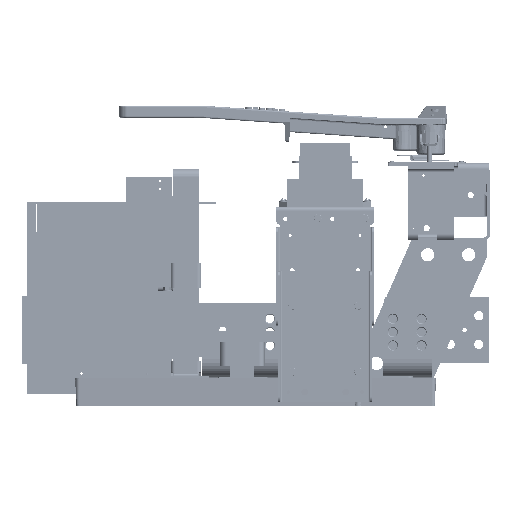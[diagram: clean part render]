
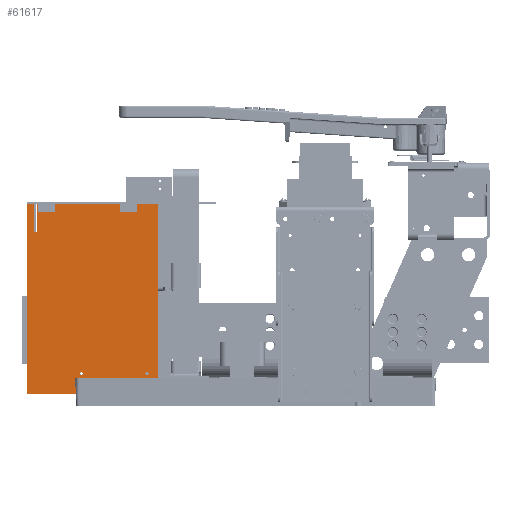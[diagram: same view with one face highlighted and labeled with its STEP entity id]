
A CAD part, left-side view. The second image highlights one B-rep face of the part: STEP entity #61617.
In plain terms, the highlighted planar face has unit normal (-1, 0, 0) as drawn and (0, 0, -1) by its records, which use the part's own axes.
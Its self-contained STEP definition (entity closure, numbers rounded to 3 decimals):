
#2981=FACE_BOUND('',#13034,.T.);
#2982=FACE_BOUND('',#13035,.T.);
#2983=FACE_BOUND('',#13036,.T.);
#2984=FACE_BOUND('',#13037,.T.);
#4947=CIRCLE('',#68011,0.097);
#4949=CIRCLE('',#68014,0.097);
#4951=CIRCLE('',#68017,0.097);
#4953=CIRCLE('',#68020,0.097);
#9077=FACE_OUTER_BOUND('',#13033,.T.);
#13033=EDGE_LOOP('',(#48762,#48763,#48764,#48765,#48766,#48767,#48768,#48769,
#48770,#48771,#48772,#48773));
#13034=EDGE_LOOP('',(#48774));
#13035=EDGE_LOOP('',(#48775));
#13036=EDGE_LOOP('',(#48776));
#13037=EDGE_LOOP('',(#48777));
#17681=LINE('',#100176,#22832);
#17685=LINE('',#100184,#22836);
#17688=LINE('',#100190,#22839);
#17691=LINE('',#100196,#22842);
#17694=LINE('',#100202,#22845);
#17697=LINE('',#100208,#22848);
#17700=LINE('',#100214,#22851);
#17703=LINE('',#100220,#22854);
#17706=LINE('',#100226,#22857);
#17709=LINE('',#100232,#22860);
#17712=LINE('',#100238,#22863);
#17715=LINE('',#100243,#22866);
#22832=VECTOR('',#80451,0.394);
#22836=VECTOR('',#80457,0.394);
#22839=VECTOR('',#80462,0.394);
#22842=VECTOR('',#80467,0.394);
#22845=VECTOR('',#80472,0.394);
#22848=VECTOR('',#80477,0.394);
#22851=VECTOR('',#80482,0.394);
#22854=VECTOR('',#80487,0.394);
#22857=VECTOR('',#80492,0.394);
#22860=VECTOR('',#80497,0.394);
#22863=VECTOR('',#80502,0.394);
#22866=VECTOR('',#80507,0.394);
#28341=VERTEX_POINT('',#100150);
#28343=VERTEX_POINT('',#100156);
#28345=VERTEX_POINT('',#100162);
#28347=VERTEX_POINT('',#100168);
#28349=VERTEX_POINT('',#100174);
#28350=VERTEX_POINT('',#100175);
#28353=VERTEX_POINT('',#100183);
#28355=VERTEX_POINT('',#100189);
#28357=VERTEX_POINT('',#100195);
#28359=VERTEX_POINT('',#100201);
#28361=VERTEX_POINT('',#100207);
#28363=VERTEX_POINT('',#100213);
#28365=VERTEX_POINT('',#100219);
#28367=VERTEX_POINT('',#100225);
#28369=VERTEX_POINT('',#100231);
#28371=VERTEX_POINT('',#100237);
#35549=EDGE_CURVE('',#28341,#28341,#4947,.T.);
#35552=EDGE_CURVE('',#28343,#28343,#4949,.T.);
#35555=EDGE_CURVE('',#28345,#28345,#4951,.T.);
#35558=EDGE_CURVE('',#28347,#28347,#4953,.T.);
#35561=EDGE_CURVE('',#28349,#28350,#17681,.T.);
#35565=EDGE_CURVE('',#28353,#28349,#17685,.T.);
#35568=EDGE_CURVE('',#28355,#28353,#17688,.T.);
#35571=EDGE_CURVE('',#28357,#28355,#17691,.T.);
#35574=EDGE_CURVE('',#28359,#28357,#17694,.T.);
#35577=EDGE_CURVE('',#28361,#28359,#17697,.T.);
#35580=EDGE_CURVE('',#28363,#28361,#17700,.T.);
#35583=EDGE_CURVE('',#28365,#28363,#17703,.T.);
#35586=EDGE_CURVE('',#28367,#28365,#17706,.T.);
#35589=EDGE_CURVE('',#28369,#28367,#17709,.T.);
#35592=EDGE_CURVE('',#28371,#28369,#17712,.T.);
#35595=EDGE_CURVE('',#28350,#28371,#17715,.T.);
#48762=ORIENTED_EDGE('',*,*,#35595,.F.);
#48763=ORIENTED_EDGE('',*,*,#35561,.F.);
#48764=ORIENTED_EDGE('',*,*,#35565,.F.);
#48765=ORIENTED_EDGE('',*,*,#35568,.F.);
#48766=ORIENTED_EDGE('',*,*,#35571,.F.);
#48767=ORIENTED_EDGE('',*,*,#35574,.F.);
#48768=ORIENTED_EDGE('',*,*,#35577,.F.);
#48769=ORIENTED_EDGE('',*,*,#35580,.F.);
#48770=ORIENTED_EDGE('',*,*,#35583,.F.);
#48771=ORIENTED_EDGE('',*,*,#35586,.F.);
#48772=ORIENTED_EDGE('',*,*,#35589,.F.);
#48773=ORIENTED_EDGE('',*,*,#35592,.F.);
#48774=ORIENTED_EDGE('',*,*,#35549,.T.);
#48775=ORIENTED_EDGE('',*,*,#35552,.T.);
#48776=ORIENTED_EDGE('',*,*,#35555,.T.);
#48777=ORIENTED_EDGE('',*,*,#35558,.T.);
#59009=PLANE('',#68035);
#61617=ADVANCED_FACE('',(#9077,#2981,#2982,#2983,#2984),#59009,.F.);
#68011=AXIS2_PLACEMENT_3D('',#100151,#80423,#80424);
#68014=AXIS2_PLACEMENT_3D('',#100157,#80430,#80431);
#68017=AXIS2_PLACEMENT_3D('',#100163,#80437,#80438);
#68020=AXIS2_PLACEMENT_3D('',#100169,#80444,#80445);
#68035=AXIS2_PLACEMENT_3D('',#100246,#80511,#80512);
#80423=DIRECTION('center_axis',(0.,0.,1.));
#80424=DIRECTION('ref_axis',(-1.,0.,0.));
#80430=DIRECTION('center_axis',(0.,0.,1.));
#80431=DIRECTION('ref_axis',(-1.,0.,0.));
#80437=DIRECTION('center_axis',(0.,0.,1.));
#80438=DIRECTION('ref_axis',(-1.,0.,0.));
#80444=DIRECTION('center_axis',(0.,0.,1.));
#80445=DIRECTION('ref_axis',(-1.,0.,0.));
#80451=DIRECTION('',(1.,0.,0.));
#80457=DIRECTION('',(0.,1.,0.));
#80462=DIRECTION('',(1.,0.,0.));
#80467=DIRECTION('',(0.,-1.,0.));
#80472=DIRECTION('',(-1.,0.,0.));
#80477=DIRECTION('',(0.,-1.,0.));
#80482=DIRECTION('',(1.,0.,0.));
#80487=DIRECTION('',(0.,-1.,0.));
#80492=DIRECTION('',(-1.,0.,0.));
#80497=DIRECTION('',(0.,1.,0.));
#80502=DIRECTION('',(1.,0.,0.));
#80507=DIRECTION('',(0.,-1.,0.));
#80511=DIRECTION('center_axis',(0.,0.,1.));
#80512=DIRECTION('ref_axis',(1.,0.,0.));
#100150=CARTESIAN_POINT('',(0.347,2.,0.));
#100151=CARTESIAN_POINT('Origin',(0.25,2.,0.));
#100156=CARTESIAN_POINT('',(0.347,7.,0.));
#100157=CARTESIAN_POINT('Origin',(0.25,7.,0.));
#100162=CARTESIAN_POINT('',(10.472,0.688,0.));
#100163=CARTESIAN_POINT('Origin',(10.375,0.688,0.));
#100168=CARTESIAN_POINT('',(10.472,4.688,0.));
#100169=CARTESIAN_POINT('Origin',(10.375,4.688,0.));
#100174=CARTESIAN_POINT('',(10.625,5.094,0.));
#100175=CARTESIAN_POINT('',(11.156,5.094,0.));
#100176=CARTESIAN_POINT('',(10.625,5.094,0.));
#100183=CARTESIAN_POINT('',(10.625,0.,0.));
#100184=CARTESIAN_POINT('',(10.625,0.,0.));
#100189=CARTESIAN_POINT('',(0.,0.,0.));
#100190=CARTESIAN_POINT('',(0.,0.,0.));
#100195=CARTESIAN_POINT('',(0.,7.422,0.));
#100196=CARTESIAN_POINT('',(0.,7.422,0.));
#100201=CARTESIAN_POINT('',(1.75,7.422,0.));
#100202=CARTESIAN_POINT('',(1.75,7.422,0.));
#100207=CARTESIAN_POINT('',(1.75,7.578,0.));
#100208=CARTESIAN_POINT('',(1.75,7.578,0.));
#100213=CARTESIAN_POINT('',(0.,7.578,0.));
#100214=CARTESIAN_POINT('',(0.,7.578,0.));
#100219=CARTESIAN_POINT('',(0.,8.,0.));
#100220=CARTESIAN_POINT('',(0.,8.,0.));
#100225=CARTESIAN_POINT('',(11.625,8.,0.));
#100226=CARTESIAN_POINT('',(11.625,8.,0.));
#100231=CARTESIAN_POINT('',(11.625,4.719,0.));
#100232=CARTESIAN_POINT('',(11.625,4.719,0.));
#100237=CARTESIAN_POINT('',(11.156,4.719,0.));
#100238=CARTESIAN_POINT('',(11.156,4.719,0.));
#100243=CARTESIAN_POINT('',(11.156,5.094,0.));
#100246=CARTESIAN_POINT('Origin',(5.401,4.41,0.));
